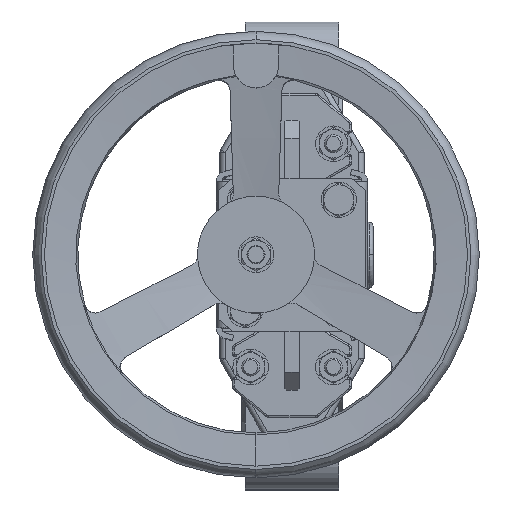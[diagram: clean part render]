
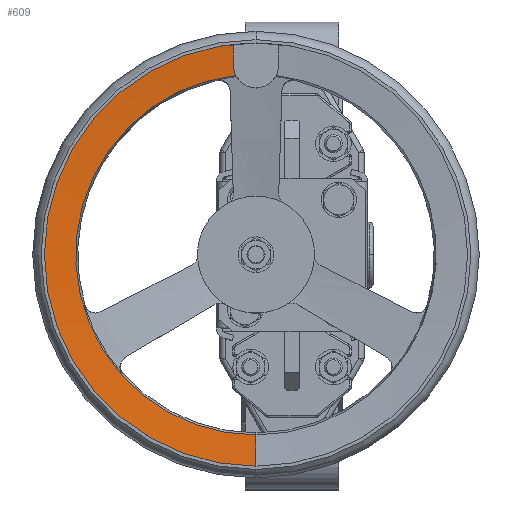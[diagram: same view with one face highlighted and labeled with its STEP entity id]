
A CAD part, top view. The second image highlights one B-rep face of the part: STEP entity #609.
In plain terms, the highlighted conical face has half-angle 85 degrees and reference radius 117.5 mm.
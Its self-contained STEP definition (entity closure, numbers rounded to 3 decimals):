
#609=ADVANCED_FACE('',(#2047),#2048,.F.);
#2047=FACE_OUTER_BOUND('',#4593,.T.);
#2048=CONICAL_SURFACE('',#4594,117.5,1.484);
#4593=EDGE_LOOP('',(#15518,#15519,#15520,#15521,#15522,#15523,#15524));
#4594=AXIS2_PLACEMENT_3D('',#15525,#15526,#15527);
#15518=ORIENTED_EDGE('',*,*,#23769,.F.);
#15519=ORIENTED_EDGE('',*,*,#23179,.T.);
#15520=ORIENTED_EDGE('',*,*,#23770,.T.);
#15521=ORIENTED_EDGE('',*,*,#23771,.T.);
#15522=ORIENTED_EDGE('',*,*,#23772,.F.);
#15523=ORIENTED_EDGE('',*,*,#23773,.F.);
#15524=ORIENTED_EDGE('',*,*,#23742,.F.);
#15525=CARTESIAN_POINT('',(-20.,0.,462.019));
#15526=DIRECTION('',(0.,0.,1.));
#15527=DIRECTION('',(0.,-1.,0.));
#23179=EDGE_CURVE('',#26543,#26541,#26544,.T.);
#23742=EDGE_CURVE('',#27641,#27637,#27643,.T.);
#23769=EDGE_CURVE('',#26543,#27641,#27696,.T.);
#23770=EDGE_CURVE('',#26541,#27697,#27698,.T.);
#23771=EDGE_CURVE('',#27697,#27699,#27700,.T.);
#23772=EDGE_CURVE('',#27701,#27699,#27702,.T.);
#23773=EDGE_CURVE('',#27637,#27701,#27703,.T.);
#26541=VERTEX_POINT('',#31486);
#26543=VERTEX_POINT('',#31491);
#26544=CIRCLE('',#31492,100.133);
#27637=VERTEX_POINT('',#34060);
#27641=VERTEX_POINT('',#34065);
#27643=CIRCLE('',#34068,117.5);
#27696=LINE('',#34149,#34150);
#27697=VERTEX_POINT('',#34151);
#27698=B_SPLINE_CURVE_WITH_KNOTS('',3,(#34152,#34153,#34154,#34155,#34156,#34157),.UNSPECIFIED.,.F.,.F.,(4,2,4),(0.001,0.004,0.007),.UNSPECIFIED.);
#27699=VERTEX_POINT('',#34158);
#27700=B_SPLINE_CURVE_WITH_KNOTS('',3,(#34159,#34160,#34161,#34162,#34163,#34164,#34165),.UNSPECIFIED.,.F.,.F.,(4,3,4),(0.021,0.023,0.033),.UNSPECIFIED.);
#27701=VERTEX_POINT('',#34166);
#27702=CIRCLE('',#34167,117.278);
#27703=LINE('',#34168,#34169);
#31486=CARTESIAN_POINT('',(-31.226,99.502,460.5));
#31491=CARTESIAN_POINT('',(-20.,-100.133,460.5));
#31492=AXIS2_PLACEMENT_3D('',#42250,#42251,#42252);
#34060=CARTESIAN_POINT('',(-20.,117.5,462.019));
#34065=CARTESIAN_POINT('',(-20.,-117.5,462.019));
#34068=AXIS2_PLACEMENT_3D('',#43231,#43232,#43233);
#34149=CARTESIAN_POINT('',(-20.,-117.5,462.019));
#34150=VECTOR('',#43281,1.);
#34151=CARTESIAN_POINT('',(-32.5,105.,460.991));
#34152=CARTESIAN_POINT('',(-31.226,99.502,460.5));
#34153=CARTESIAN_POINT('',(-31.643,100.353,460.578));
#34154=CARTESIAN_POINT('',(-31.961,101.244,460.659));
#34155=CARTESIAN_POINT('',(-32.393,103.111,460.825));
#34156=CARTESIAN_POINT('',(-32.5,104.053,460.908));
#34157=CARTESIAN_POINT('',(-32.5,105.,460.991));
#34158=CARTESIAN_POINT('',(-32.5,116.61,462.));
#34159=CARTESIAN_POINT('',(-32.5,105.,460.991));
#34160=CARTESIAN_POINT('',(-32.5,105.524,461.036));
#34161=CARTESIAN_POINT('',(-32.5,106.049,461.082));
#34162=CARTESIAN_POINT('',(-32.5,106.573,461.127));
#34163=CARTESIAN_POINT('',(-32.5,109.919,461.418));
#34164=CARTESIAN_POINT('',(-32.5,113.264,461.709));
#34165=CARTESIAN_POINT('',(-32.5,116.61,462.));
#34166=CARTESIAN_POINT('',(-20.,117.278,462.));
#34167=AXIS2_PLACEMENT_3D('',#43282,#43283,#43284);
#34168=CARTESIAN_POINT('',(-20.,117.5,462.019));
#34169=VECTOR('',#43285,1.);
#42250=CARTESIAN_POINT('',(-20.,0.,460.5));
#42251=DIRECTION('',(0.,0.,-1.));
#42252=DIRECTION('',(0.,1.,0.));
#43231=CARTESIAN_POINT('',(-20.,0.,462.019));
#43232=DIRECTION('',(0.,0.,-1.));
#43233=DIRECTION('',(0.,1.,0.));
#43281=DIRECTION('',(0.,-0.996,0.087));
#43282=CARTESIAN_POINT('',(-20.,0.,462.));
#43283=DIRECTION('',(0.,0.,1.));
#43284=DIRECTION('',(1.,0.,0.));
#43285=DIRECTION('',(0.,-0.996,-0.087));
